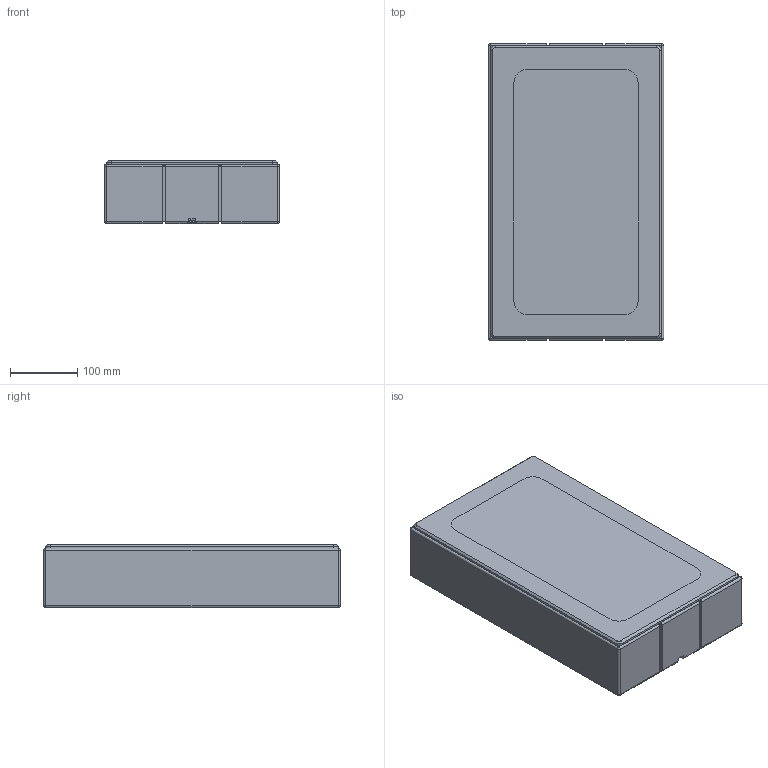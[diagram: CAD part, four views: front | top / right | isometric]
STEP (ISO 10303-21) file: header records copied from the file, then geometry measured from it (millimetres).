
FILE_DESCRIPTION(/* description */ (''),/* implementation_level */ '2;1');
FILE_NAME(/* name */ 'The6 PASSIVE 2023_COMBINE v9.step',/* time_stamp */ '2023-06-24T23:44:09+02:00',/* author */ (''),/* organization */ (''),/* preprocessor_version */ 'ST-DEVELOPER v19.2',/* originating_system */ 'Autodesk Translation Framework v12.6.0.85',/* authorisation */ '');
FILE_SCHEMA (('AUTOMOTIVE_DESIGN { 1 0 10303 214 3 1 1 }'));
Products named in the file (3): The6 PASSIVE 2023_COMBINE; COMBINE_FullGrille; COMBINE_FullSpeaker
Assembly tree (2 placements, depth 2):
  The6 PASSIVE 2023_COMBINE
    COMBINE_FullGrille
    COMBINE_FullSpeaker
Bounding box: 260 x 440 x 94.25 mm (x, y, z)
Volume: 3347423.5 mm3; surface area: 1094633.6 mm2
Topology: 4 solids, 8 shells, 3218 faces, 8406 edges, 5400 vertices
Faces by surface type: plane 1611, cylinder 646, bspline 645, cone 230, torus 73, sphere 13
Full cylindrical faces by diameter (mm): 2.5 x92, 2.9 x28, 3.2 x2, 3.5 x4, 3.6 x24, 4 x16, 4.2 x4, 4.5 x2, 5.2 x4, 5.4 x4, 5.5 x4, 5.8 x4, 6 x4, 6.5 x16, 6.8 x4, 7.3 x4, 8 x4, 10 x2, 10.2 x8, 10.3 x8, 11.5 x2, 11.706 x2, 20 x4, 34 x4, 45 x1, 148 x1, 153 x1, 158 x1, 159.6 x1, 160.5 x1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
Entity records: 150232 total; most frequent: CARTESIAN_POINT 73725, ORIENTED_EDGE 16736, DIRECTION 14374, EDGE_CURVE 8368, VERTEX_POINT 5400, AXIS2_PLACEMENT_3D 4855, LINE 4664, VECTOR 4664
